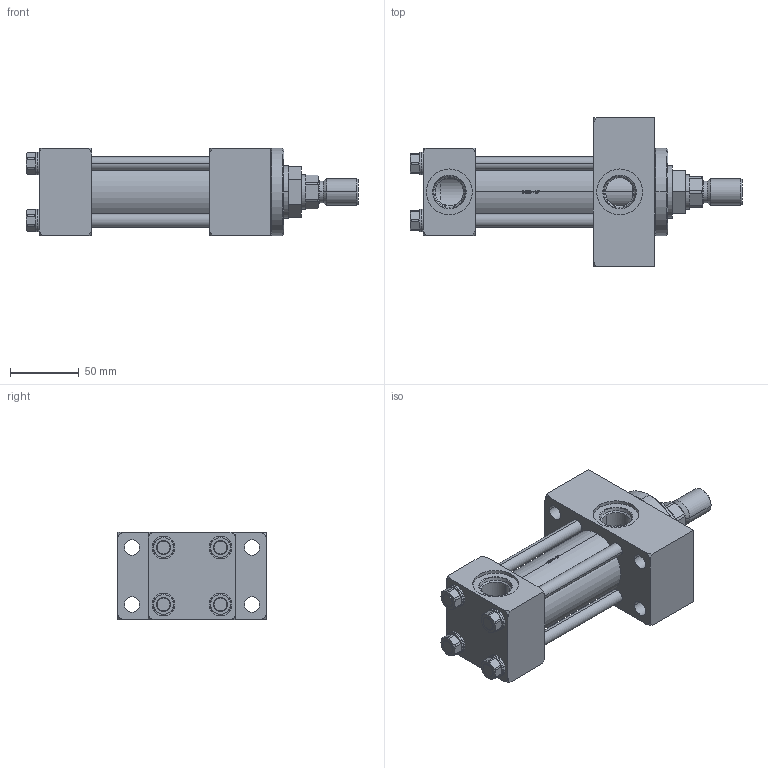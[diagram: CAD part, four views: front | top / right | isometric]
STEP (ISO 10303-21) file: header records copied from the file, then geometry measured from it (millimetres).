
FILE_DESCRIPTION (( 'STEP AP214' ), '1' );
FILE_NAME ('1.50JJ2HHNAT124A2.000.step', '2026-03-26T21:19:53', ( '' ), ( '' ), 'SwSTEP 2.0', 'SolidWorks 2023', '' );
FILE_SCHEMA (( 'AUTOMOTIVE_DESIGN' ));
Length unit declared in the file: inch
Products named in the file (1): 1.50JJ2HHNAT124A2.000
Bounding box: 241.3 x 107.95 x 63.5 mm (x, y, z)
Volume: 598238.3 mm3; surface area: 163404.1 mm2
Topology: 42 solids, 42 shells, 1604 faces, 4163 edges, 2654 vertices
Faces by surface type: plane 822, cylinder 513, cone 229, bspline 32, torus 8
Entity records: 73672 total; most frequent: CARTESIAN_POINT 13869, ORIENTED_EDGE 8246, DIRECTION 7903, EDGE_CURVE 4123, AXIS2_PLACEMENT_3D 3041, VERTEX_POINT 2654, VECTOR 1821, LINE 1821
